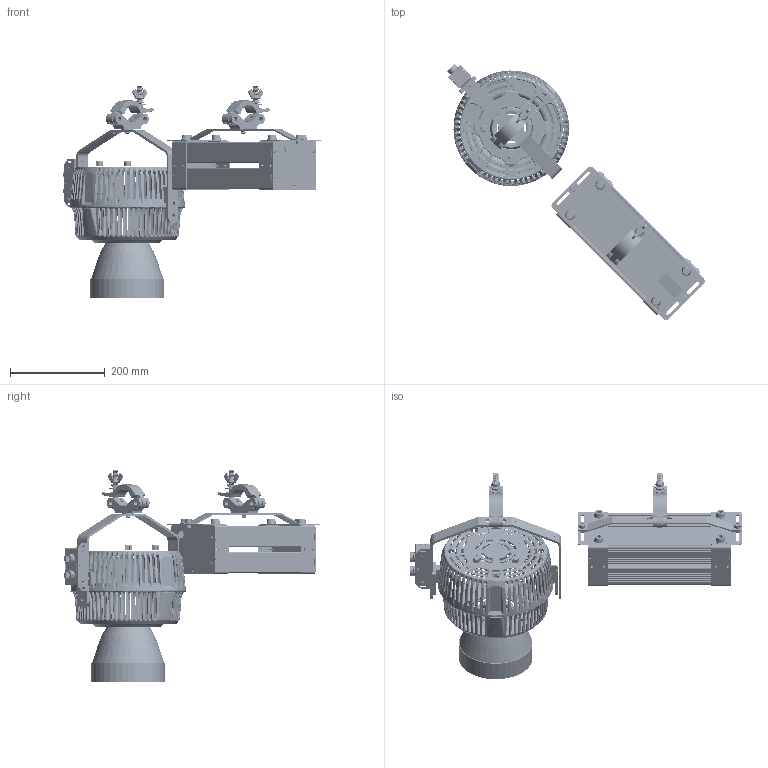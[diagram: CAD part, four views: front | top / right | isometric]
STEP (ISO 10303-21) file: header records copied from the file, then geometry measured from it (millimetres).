
FILE_DESCRIPTION (( 'STEP AP214' ), '1' );
FILE_NAME ('W2KB-CLP.STEP', '2024-01-31T02:05:47', ( '' ), ( '' ), 'SwSTEP 2.0', 'SolidWorks 2022', '' );
FILE_SCHEMA (( 'AUTOMOTIVE_DESIGN' ));
Length unit declared in the file: millimetre
Products named in the file (30): 5022654-XXX_A1_Sheet Metal Part-C, 130x2x103.4mm___; 5021736-006_A2_Aluminum Hook, M12_Original; CLP+TOKE___; 5021926_A1_KNOB, 18T, OD=14.9, ID=6, L=10MM___; 62280-3364010 SCREW, M4 L10 PAN HEAD, HEX SOCKET, Threadlocking, SUS, BLACK___; W2K 277V Power Supply_TYPE-B; 62280-2163008 SCREW, M3 L8 FLAT HEAD, TORX, SUS, BLACK___; SCREW, PAN HEAD SUS-304, M4.0 x L5mm___; DMX Signal Cable_X2___; RJ45_WaterProof_3352I02029___; 5022644_A1_REFLECTOR-50 FOR W2K___; 5022499_X2_Single Arm Pivot Base___; BOTTOM COVER_X2___; SCREW, M8 L8 CAP HEAD, HEX SOCKET, SUS, BLACK___; Top Assembly W2K_20220609_15; 5022531_X1_BOTTOM HOUSING FOR W2K&A2K; WASHER ID4.2,OD10,T=1___; TOP COVER_X2___; 5022650-XXX_A2_HandBar for 277V, 346.7x25x23mm___; 5022652-XXX_A1_Sheet Metal Part-A, 120x2x65mm___; 5022654-XXX_A1_Sheet Metal Part-C, 130x2x103.4mm_AC; REFLECTOR-50___; 5022653-XXX_A1_Sheet Metal Part-B, 130x40x103.4mm___; RJ45_WaterProof_3352I02029-PCB Housing___; 5022495-XXX_A3_Yoke, 275x30x195mm___; 5021745-200429010465_Plastic Foot, GL-4A, OD20 ID4.2 H10.4, Black___; 5022530-2022-01-10___; W2KB-CLP; HLG-480H_Power Supply___; 5022496_X2_Yoke Adapter___
Assembly tree (55 placements, depth 5):
  W2KB-CLP
    Top Assembly W2K_20220609_15
      DMX Signal Cable_X2___
        BOTTOM COVER_X2___
        TOP COVER_X2___
        RJ45_WaterProof_3352I02029___  x2
          RJ45_WaterProof_3352I02029-PCB Housing___
      CLP+TOKE___
        5021736-006_A2_Aluminum Hook, M12_Original
        5022495-XXX_A3_Yoke, 275x30x195mm___
      5022531_X1_BOTTOM HOUSING FOR W2K&A2K
      5022496_X2_Yoke Adapter___  x2
      5022530-2022-01-10___
      5021926_A1_KNOB, 18T, OD=14.9, ID=6, L=10MM___  x2
      SCREW, M8 L8 CAP HEAD, HEX SOCKET, SUS, BLACK___
      5022499_X2_Single Arm Pivot Base___
      REFLECTOR-50___
        5022644_A1_REFLECTOR-50 FOR W2K___
        SCREW, PAN HEAD SUS-304, M4.0 x L5mm___  x4
        WASHER ID4.2,OD10,T=1___  x4
    W2K 277V Power Supply_TYPE-B
      HLG-480H_Power Supply___  x2
      5022653-XXX_A1_Sheet Metal Part-B, 130x40x103.4mm___  x2
      5022652-XXX_A1_Sheet Metal Part-A, 120x2x65mm___  x2
      5022654-XXX_A1_Sheet Metal Part-C, 130x2x103.4mm___
      62280-3364010 SCREW, M4 L10 PAN HEAD, HEX SOCKET, Threadlocking, SUS, BLACK___  x4
      5022654-XXX_A1_Sheet Metal Part-C, 130x2x103.4mm_AC
      62280-2163008 SCREW, M3 L8 FLAT HEAD, TORX, SUS, BLACK___  x6
      5021745-200429010465_Plastic Foot, GL-4A, OD20 ID4.2 H10.4, Black___  x4
      5022650-XXX_A2_HandBar for 277V, 346.7x25x23mm___
      SCREW, M8 L8 CAP HEAD, HEX SOCKET, SUS, BLACK___  x2
      5021736-006_A2_Aluminum Hook, M12_Original
Bounding box: 543.22 x 539.4 x 447.36 mm (x, y, z)
Volume: 3387145.4 mm3; surface area: 1021667 mm2
Topology: 63 solids, 63 shells, 8055 faces, 21480 edges, 13377 vertices
Faces by surface type: bspline 2459, plane 2292, cylinder 2169, torus 569, cone 530, sphere 36
Entity records: 394544 total; most frequent: CARTESIAN_POINT 227212, ORIENTED_EDGE 33132, DIRECTION 22823, EDGE_CURVE 16566, VERTEX_POINT 10173, AXIS2_PLACEMENT_3D 9268, EDGE_LOOP 6633, B_SPLINE_CURVE_WITH_KNOTS 6620
